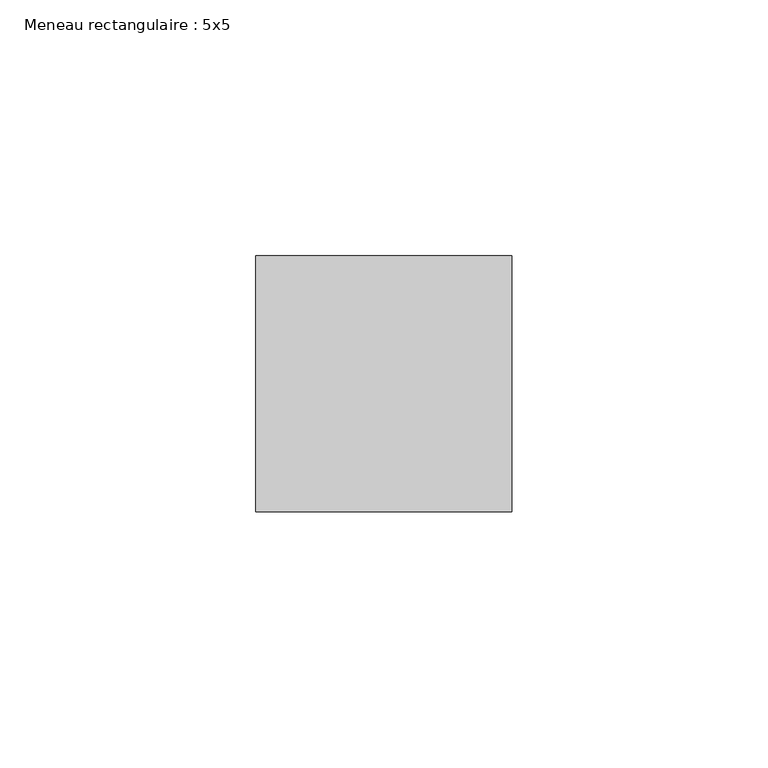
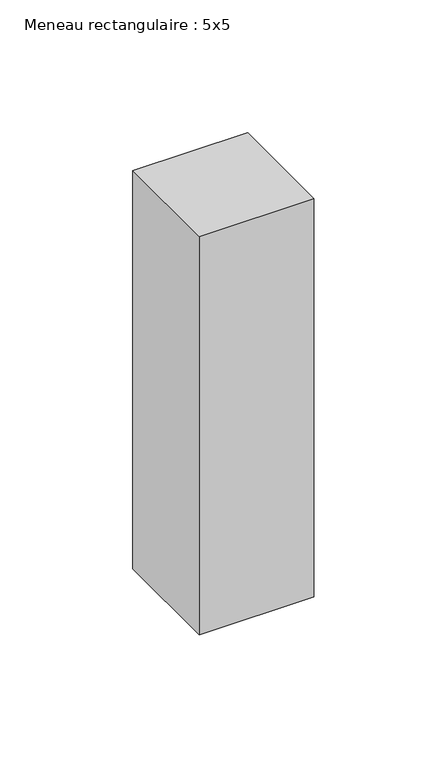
"""IFC4 building model written with IfcOpenShell, lengths in millimetres: member geometry, Meneau rectangulaire : 5x5."""

import ifcopenshell
import ifcopenshell.guid

model = None  # the IFC model being written
_history = None  # IfcOwnerHistory: only IFC2X3 demands one
_inside = {}  # id of a spatial element -> (the spatial element, [elements in it])
_under = {}  # id of a project, library or spatial element -> (it, [spatial elements below it])
_declared = {}  # id of a project -> (the project, [libraries it declares])
_typed = {}  # id of a type object -> (the type object, [elements of that type])
_made_of = {}  # id of a material, layer set ... -> (it, [elements and type objects made of it])


def new_model(schema):
    """Start an empty IFC model of exactly this schema.

    Asked for "IFC4X3", IfcOpenShell would pick the latest addendum, in which some entities
    have other attributes; the version numbers below select the first issue.
    IFC2X3 requires an IfcOwnerHistory on every rooted entity: one is made here for all.
    """
    global model, _history
    if schema == "IFC4X3":
        model = ifcopenshell.file(schema_version=(4, 3, 0, 0))
    else:
        model = ifcopenshell.file(schema=schema)
    _inside.clear()
    _under.clear()
    _declared.clear()
    _typed.clear()
    _made_of.clear()
    _history = None
    if model.schema == "IFC2X3":
        org = make("IfcOrganization", Name="unknown")
        user = make(
            "IfcPersonAndOrganization",
            ThePerson=make("IfcPerson", FamilyName="unknown"),
            TheOrganization=org,
        )
        app = make(
            "IfcApplication",
            ApplicationDeveloper=org,
            Version="unknown",
            ApplicationFullName="unknown",
            ApplicationIdentifier="unknown",
        )
        _history = make(
            "IfcOwnerHistory",
            OwningUser=user,
            OwningApplication=app,
            ChangeAction="ADDED",
            CreationDate=0,
        )
    return model


def make(cls, **values):
    """One entity of the class cls with the attributes given. An attribute that is None is left unset."""
    return model.create_entity(
        cls, **{name: value for name, value in values.items() if value is not None}
    )


def rooted(cls, **values):
    """An entity with a GlobalId (a new one), such as an element, a storey or a relation."""
    return make(cls, GlobalId=ifcopenshell.guid.new(), OwnerHistory=_history, **values)


def si_unit(unit_type, name, prefix=None):
    """IfcSIUnit, for example si_unit("LENGTHUNIT", "METRE", prefix="MILLI")."""
    return make("IfcSIUnit", UnitType=unit_type, Prefix=prefix, Name=name)


def assignment(units):
    """IfcUnitAssignment: the units of a project."""
    return None if units is None else make("IfcUnitAssignment", Units=units)


def point(xyz):
    """IfcCartesianPoint."""
    return None if xyz is None else make("IfcCartesianPoint", Coordinates=xyz)


def direction(xyz):
    """IfcDirection."""
    return None if xyz is None else make("IfcDirection", DirectionRatios=xyz)


def frame(location, z_axis=None, x_axis=None):
    """IfcAxis2Placement3D, a coordinate frame: its origin and axes. An axis left out is left unset."""
    return make(
        "IfcAxis2Placement3D",
        Location=point(location),
        Axis=direction(z_axis),
        RefDirection=direction(x_axis),
    )


def origin():
    """The frame at (0, 0, 0) with its axes left unset."""
    return frame((0.0, 0.0, 0.0))


def place(relative_to, where):
    """IfcLocalPlacement: puts the frame where relative to a parent placement (None: the world)."""
    return make(
        "IfcLocalPlacement", PlacementRelTo=relative_to, RelativePlacement=where
    )


def context(
    kind, dimensions, precision=None, world=None, true_north=None, identifier=None
):
    """IfcGeometricRepresentationContext, for example the 3D "Model" context."""
    return make(
        "IfcGeometricRepresentationContext",
        ContextIdentifier=identifier,
        ContextType=kind,
        CoordinateSpaceDimension=dimensions,
        Precision=precision,
        WorldCoordinateSystem=world,
        TrueNorth=true_north,
    )


def project(units=None, contexts=None):
    """IfcProject with its units and contexts."""
    return rooted(
        "IfcProject",
        Name="project",
        RepresentationContexts=contexts,
        UnitsInContext=assignment(units),
    )


def spatial(cls, under=None, at=None, **own):
    """A site, building, storey or space (cls), placed at a placement, below another one or the project."""
    s = rooted(cls, ObjectPlacement=at, **own)
    if under is not None:
        _under.setdefault(under.id(), (under, []))[1].append(s)
    return s


def polyline(points):
    """IfcPolyline through the points."""
    return make("IfcPolyline", Points=[point(p) for p in points])


def outline(outer, holes=None, kind="AREA"):
    """IfcArbitraryClosedProfileDef: a profile drawn as a closed curve; with holes, ...WithVoids."""
    if holes is None:
        return make("IfcArbitraryClosedProfileDef", ProfileType=kind, OuterCurve=outer)
    return make(
        "IfcArbitraryProfileDefWithVoids",
        ProfileType=kind,
        OuterCurve=outer,
        InnerCurves=holes,
    )


def extrude(swept, where, along, depth):
    """IfcExtrudedAreaSolid: the profile swept, set in the frame where, extruded along a direction by depth."""
    return make(
        "IfcExtrudedAreaSolid",
        SweptArea=swept,
        Position=where,
        ExtrudedDirection=direction(along),
        Depth=depth,
    )


def shape(context_of_items, identifier, shape_type, items):
    """IfcShapeRepresentation: the items that make up one representation, for example the "Body"."""
    return make(
        "IfcShapeRepresentation",
        ContextOfItems=context_of_items,
        RepresentationIdentifier=identifier,
        RepresentationType=shape_type,
        Items=items,
    )


def source(mapping_origin, context_of_items, identifier, shape_type, items):
    """IfcRepresentationMap: a shape defined once, which mapped items show again and again."""
    return make(
        "IfcRepresentationMap",
        MappingOrigin=mapping_origin,
        MappedRepresentation=shape(context_of_items, identifier, shape_type, items),
    )


def transform(
    local_origin,
    x_axis=None,
    y_axis=None,
    z_axis=None,
    scale=None,
    scale2=None,
    scale3=None,
    uniform=True,
):
    """IfcCartesianTransformationOperator3D, or its non-uniform kind. x_axis, y_axis, z_axis: its Axis1, 2, 3."""
    if uniform:
        return make(
            "IfcCartesianTransformationOperator3D",
            Axis1=direction(x_axis),
            Axis2=direction(y_axis),
            LocalOrigin=point(local_origin),
            Scale=scale,
            Axis3=direction(z_axis),
        )
    return make(
        "IfcCartesianTransformationOperator3DnonUniform",
        Axis1=direction(x_axis),
        Axis2=direction(y_axis),
        LocalOrigin=point(local_origin),
        Scale=scale,
        Axis3=direction(z_axis),
        Scale2=scale2,
        Scale3=scale3,
    )


def mapped(mapping_source, mapping_target):
    """IfcMappedItem: shows the shape of a source again, moved by a transform."""
    return make(
        "IfcMappedItem", MappingSource=mapping_source, MappingTarget=mapping_target
    )


def made_of(thing, what):
    """Note that an element or type object is made of a material, layer set ...; save() writes the relation."""
    if what is not None:
        _made_of.setdefault(what.id(), (what, []))[1].append(thing)
    return thing


def element(
    cls,
    number,
    at=None,
    inside=None,
    cuts=None,
    type_object=None,
    material=None,
    context=None,
    identifier="Body",
    shape_type=None,
    held_by="IfcProductDefinitionShape",
    body=None,
    shapes=None,
    **own,
):
    """One element of the class cls, such as IfcWall. Its Tag is "e" and its number.

    at: its placement. inside: the storey or other place that contains it. cuts: it is an
    opening in that element (IfcRelVoidsElement). A single representation is given by context,
    identifier, shape_type and body (its items); several are given by shapes. held_by: the class
    of the entity that holds the representations. save() writes the other relations.
    """
    e = rooted(cls, Tag="e%d" % number, ObjectPlacement=at, **own)
    if body is not None:
        shapes = [shape(context, identifier, shape_type, body)]
    if shapes is not None:
        e.Representation = make(held_by, Representations=shapes)
    if inside is not None:
        _inside.setdefault(inside.id(), (inside, []))[1].append(e)
    if cuts is not None:
        rooted(
            "IfcRelVoidsElement", RelatingBuildingElement=cuts, RelatedOpeningElement=e
        )
    if type_object is not None:
        _typed.setdefault(type_object.id(), (type_object, []))[1].append(e)
    return made_of(e, material)


def aggregate(whole, parts):
    """IfcRelAggregates: a whole, such as a stair, and the parts it consists of."""
    return rooted("IfcRelAggregates", RelatingObject=whole, RelatedObjects=parts)


def save(model, path):
    """Write the relations noted so far, then the file.

    IfcRelAggregates (storeys below a building ...), IfcRelContainedInSpatialStructure (elements
    in a storey), IfcRelDefinesByType, IfcRelAssociatesMaterial and IfcRelDeclares: one each for
    every whole, place, type object, material and project.
    """
    for whole, parts in _under.values():
        aggregate(whole, parts)
    for where, things in _inside.values():
        rooted(
            "IfcRelContainedInSpatialStructure",
            RelatedElements=things,
            RelatingStructure=where,
        )
    for kind, things in _typed.values():
        rooted("IfcRelDefinesByType", RelatedObjects=things, RelatingType=kind)
    for what, things in _made_of.values():
        rooted("IfcRelAssociatesMaterial", RelatedObjects=things, RelatingMaterial=what)
    for by, libraries in _declared.values():
        rooted("IfcRelDeclares", RelatingContext=by, RelatedDefinitions=libraries)
    model.write(path)


def meneau_rectangulaire_5x5_0fb73f0c(model_context):
    return source(origin(), model_context, "Body", "SweptSolid", [
        extrude(outline(polyline([(0.0, 25.0), (0.0, -25.0), (-50.0, -25.0), (-50.0, 25.0), (0.0, 25.0)])), frame((0.0, 0.0, -183.3333333), z_axis=(0.0, 0.0, 1.0), x_axis=(1.0, 0.0, 0.0)), (0.0, 0.0, 1.0), 183.3333333),
    ])


if __name__ == "__main__":
    model = new_model("IFC4")
    model_context = context("Model", 3, world=origin())
    ifc_project = project(units=[si_unit("LENGTHUNIT", "METRE", prefix="MILLI")], contexts=[model_context])
    site = spatial("IfcSite", under=ifc_project)
    building = spatial("IfcBuilding", under=site)
    placement = place(None, origin())
    meneau_rectangulaire_5x5_shape = meneau_rectangulaire_5x5_0fb73f0c(model_context)
    element("IfcMember", 1, ObjectType="Meneau rectangulaire : 5x5", at=placement, inside=building, context=model_context, shape_type="MappedRepresentation", body=[
        mapped(meneau_rectangulaire_5x5_shape, transform((0.0, 0.0, 0.0), x_axis=(1.0, 0.0, 0.0), y_axis=(0.0, 1.0, 0.0), z_axis=(0.0, 0.0, 1.0))),
    ])
    save(model, "model.ifc")
